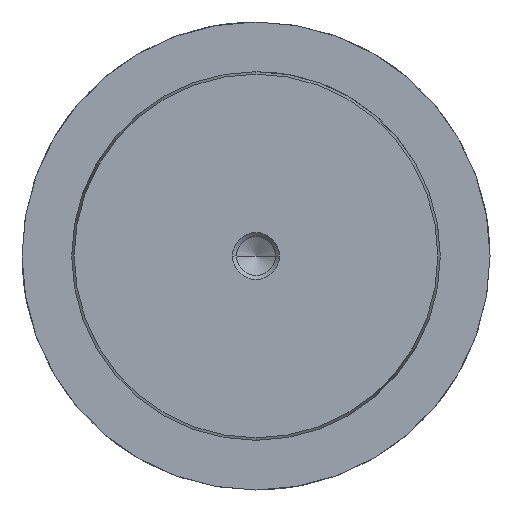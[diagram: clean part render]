
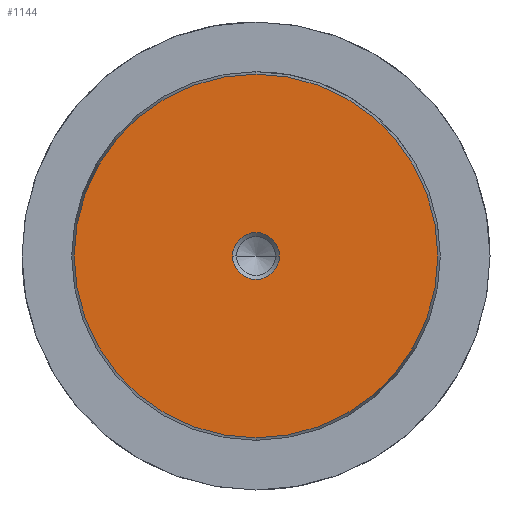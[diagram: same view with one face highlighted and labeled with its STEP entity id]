
A CAD part, left-side view. The second image highlights one B-rep face of the part: STEP entity #1144.
In plain terms, the highlighted planar face has unit normal (-1, 0, 0).
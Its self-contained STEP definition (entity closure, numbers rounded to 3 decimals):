
#1058=CARTESIAN_POINT('Vertex',(0.,0.,-31.078)) ;
#1061=CARTESIAN_POINT('Axis2P3D Location',(0.,0.,0.)) ;
#1065=CARTESIAN_POINT('Vertex',(0.,31.078,0.)) ;
#1068=CARTESIAN_POINT('Axis2P3D Location',(0.,0.,0.)) ;
#1072=CARTESIAN_POINT('Vertex',(0.,0.,31.078)) ;
#1094=CARTESIAN_POINT('Axis2P3D Location',(0.,0.,0.)) ;
#1098=CARTESIAN_POINT('Vertex',(0.,-31.078,0.)) ;
#1101=CARTESIAN_POINT('Axis2P3D Location',(0.,0.,0.)) ;
#1115=CARTESIAN_POINT('Axis2P3D Location',(0.,0.,0.)) ;
#1126=CARTESIAN_POINT('Axis2P3D Location',(0.,0.,0.)) ;
#1130=CARTESIAN_POINT('Vertex',(0.,4.,0.)) ;
#1132=CARTESIAN_POINT('Vertex',(0.,-4.,0.)) ;
#1135=CARTESIAN_POINT('Axis2P3D Location',(0.,0.,0.)) ;
#1062=DIRECTION('Axis2P3D Direction',(1.,-0.,0.)) ;
#1069=DIRECTION('Axis2P3D Direction',(1.,-0.,0.)) ;
#1095=DIRECTION('Axis2P3D Direction',(1.,0.,-0.)) ;
#1102=DIRECTION('Axis2P3D Direction',(1.,0.,-0.)) ;
#1116=DIRECTION('Axis2P3D Direction',(1.,0.,-0.)) ;
#1117=DIRECTION('Axis2P3D XDirection',(-0.,0.,-1.)) ;
#1127=DIRECTION('Axis2P3D Direction',(1.,0.,-0.)) ;
#1136=DIRECTION('Axis2P3D Direction',(1.,0.,-0.)) ;
#1063=AXIS2_PLACEMENT_3D('Circle Axis2P3D',#1061,#1062,$) ;
#1070=AXIS2_PLACEMENT_3D('Circle Axis2P3D',#1068,#1069,$) ;
#1096=AXIS2_PLACEMENT_3D('Circle Axis2P3D',#1094,#1095,$) ;
#1103=AXIS2_PLACEMENT_3D('Circle Axis2P3D',#1101,#1102,$) ;
#1118=AXIS2_PLACEMENT_3D('Plane Axis2P3D',#1115,#1116,#1117) ;
#1128=AXIS2_PLACEMENT_3D('Circle Axis2P3D',#1126,#1127,$) ;
#1137=AXIS2_PLACEMENT_3D('Circle Axis2P3D',#1135,#1136,$) ;
#1121=ORIENTED_EDGE('',*,*,#1067,.F.) ;
#1122=ORIENTED_EDGE('',*,*,#1105,.F.) ;
#1123=ORIENTED_EDGE('',*,*,#1100,.F.) ;
#1124=ORIENTED_EDGE('',*,*,#1074,.F.) ;
#1141=ORIENTED_EDGE('',*,*,#1134,.T.) ;
#1142=ORIENTED_EDGE('',*,*,#1139,.T.) ;
#1143=FACE_BOUND('',#1140,.T.) ;
#1144=ADVANCED_FACE('719-63x355',(#1125,#1143),#1119,.F.) ;
#1064=CIRCLE('generated circle',#1063,31.078) ;
#1071=CIRCLE('generated circle',#1070,31.078) ;
#1097=CIRCLE('generated circle',#1096,31.078) ;
#1104=CIRCLE('generated circle',#1103,31.078) ;
#1129=CIRCLE('generated circle',#1128,4.) ;
#1138=CIRCLE('generated circle',#1137,4.) ;
#1067=EDGE_CURVE('',#1059,#1066,#1064,.T.) ;
#1074=EDGE_CURVE('',#1066,#1073,#1071,.T.) ;
#1100=EDGE_CURVE('',#1073,#1099,#1097,.T.) ;
#1105=EDGE_CURVE('',#1099,#1059,#1104,.T.) ;
#1134=EDGE_CURVE('',#1131,#1133,#1129,.T.) ;
#1139=EDGE_CURVE('',#1133,#1131,#1138,.T.) ;
#1120=EDGE_LOOP('',(#1121,#1122,#1123,#1124)) ;
#1140=EDGE_LOOP('',(#1141,#1142)) ;
#1125=FACE_OUTER_BOUND('',#1120,.T.) ;
#1119=PLANE('Plane',#1118) ;
#1059=VERTEX_POINT('',#1058) ;
#1066=VERTEX_POINT('',#1065) ;
#1073=VERTEX_POINT('',#1072) ;
#1099=VERTEX_POINT('',#1098) ;
#1131=VERTEX_POINT('',#1130) ;
#1133=VERTEX_POINT('',#1132) ;
